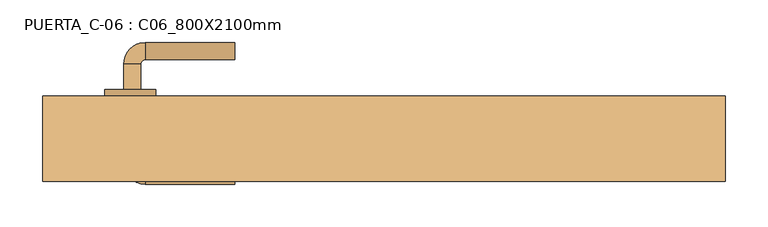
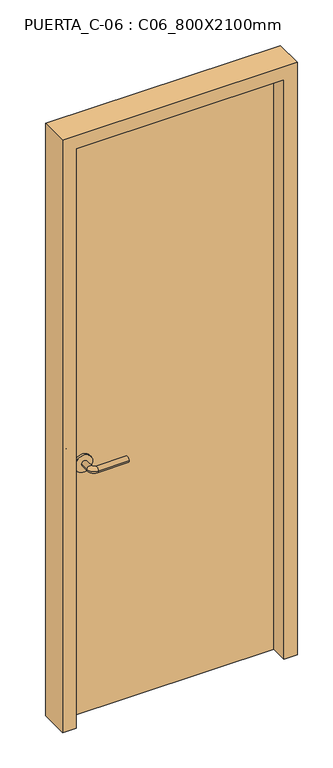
"""IFC4 building model written with IfcOpenShell, lengths in millimetres: door geometry, PUERTA_C-06 : C06_800X2100mm."""

import ifcopenshell
import ifcopenshell.guid

model = None  # the IFC model being written
_history = None  # IfcOwnerHistory: only IFC2X3 demands one
_inside = {}  # id of a spatial element -> (the spatial element, [elements in it])
_under = {}  # id of a project, library or spatial element -> (it, [spatial elements below it])
_declared = {}  # id of a project -> (the project, [libraries it declares])
_typed = {}  # id of a type object -> (the type object, [elements of that type])
_made_of = {}  # id of a material, layer set ... -> (it, [elements and type objects made of it])


def new_model(schema):
    """Start an empty IFC model of exactly this schema.

    Asked for "IFC4X3", IfcOpenShell would pick the latest addendum, in which some entities
    have other attributes; the version numbers below select the first issue.
    IFC2X3 requires an IfcOwnerHistory on every rooted entity: one is made here for all.
    """
    global model, _history
    if schema == "IFC4X3":
        model = ifcopenshell.file(schema_version=(4, 3, 0, 0))
    else:
        model = ifcopenshell.file(schema=schema)
    _inside.clear()
    _under.clear()
    _declared.clear()
    _typed.clear()
    _made_of.clear()
    _history = None
    if model.schema == "IFC2X3":
        org = make("IfcOrganization", Name="unknown")
        user = make(
            "IfcPersonAndOrganization",
            ThePerson=make("IfcPerson", FamilyName="unknown"),
            TheOrganization=org,
        )
        app = make(
            "IfcApplication",
            ApplicationDeveloper=org,
            Version="unknown",
            ApplicationFullName="unknown",
            ApplicationIdentifier="unknown",
        )
        _history = make(
            "IfcOwnerHistory",
            OwningUser=user,
            OwningApplication=app,
            ChangeAction="ADDED",
            CreationDate=0,
        )
    return model


def make(cls, **values):
    """One entity of the class cls with the attributes given. An attribute that is None is left unset."""
    return model.create_entity(
        cls, **{name: value for name, value in values.items() if value is not None}
    )


def rooted(cls, **values):
    """An entity with a GlobalId (a new one), such as an element, a storey or a relation."""
    return make(cls, GlobalId=ifcopenshell.guid.new(), OwnerHistory=_history, **values)


def si_unit(unit_type, name, prefix=None):
    """IfcSIUnit, for example si_unit("LENGTHUNIT", "METRE", prefix="MILLI")."""
    return make("IfcSIUnit", UnitType=unit_type, Prefix=prefix, Name=name)


def assignment(units):
    """IfcUnitAssignment: the units of a project."""
    return None if units is None else make("IfcUnitAssignment", Units=units)


def point(xyz):
    """IfcCartesianPoint."""
    return None if xyz is None else make("IfcCartesianPoint", Coordinates=xyz)


def direction(xyz):
    """IfcDirection."""
    return None if xyz is None else make("IfcDirection", DirectionRatios=xyz)


def frame(location, z_axis=None, x_axis=None):
    """IfcAxis2Placement3D, a coordinate frame: its origin and axes. An axis left out is left unset."""
    return make(
        "IfcAxis2Placement3D",
        Location=point(location),
        Axis=direction(z_axis),
        RefDirection=direction(x_axis),
    )


def frame_2d(location, x_axis=None):
    """IfcAxis2Placement2D, a coordinate frame in the plane: its origin and x axis."""
    return make(
        "IfcAxis2Placement2D", Location=point(location), RefDirection=direction(x_axis)
    )


def origin():
    """The frame at (0, 0, 0) with its axes left unset."""
    return frame((0.0, 0.0, 0.0))


def origin_with_axes():
    """The frame at (0, 0, 0) with the z axis (0, 0, 1) and the x axis (1, 0, 0) written out."""
    return frame((0.0, 0.0, 0.0), z_axis=(0.0, 0.0, 1.0), x_axis=(1.0, 0.0, 0.0))


def place(relative_to, where):
    """IfcLocalPlacement: puts the frame where relative to a parent placement (None: the world)."""
    return make(
        "IfcLocalPlacement", PlacementRelTo=relative_to, RelativePlacement=where
    )


def context(
    kind, dimensions, precision=None, world=None, true_north=None, identifier=None
):
    """IfcGeometricRepresentationContext, for example the 3D "Model" context."""
    return make(
        "IfcGeometricRepresentationContext",
        ContextIdentifier=identifier,
        ContextType=kind,
        CoordinateSpaceDimension=dimensions,
        Precision=precision,
        WorldCoordinateSystem=world,
        TrueNorth=true_north,
    )


def project(units=None, contexts=None):
    """IfcProject with its units and contexts."""
    return rooted(
        "IfcProject",
        Name="project",
        RepresentationContexts=contexts,
        UnitsInContext=assignment(units),
    )


def spatial(cls, under=None, at=None, **own):
    """A site, building, storey or space (cls), placed at a placement, below another one or the project."""
    s = rooted(cls, ObjectPlacement=at, **own)
    if under is not None:
        _under.setdefault(under.id(), (under, []))[1].append(s)
    return s


def polyline(points):
    """IfcPolyline through the points."""
    return make("IfcPolyline", Points=[point(p) for p in points])


def circle_curve(where, radius):
    """IfcCircle in the frame where."""
    return make("IfcCircle", Position=where, Radius=radius)


def ellipse_curve(where, semi_axis1, semi_axis2):
    """IfcEllipse in the frame where."""
    return make(
        "IfcEllipse", Position=where, SemiAxis1=semi_axis1, SemiAxis2=semi_axis2
    )


def trimmed(basis, trim1, trim2, sense, master):
    """IfcTrimmedCurve: the piece of a basis curve between two trims."""
    return make(
        "IfcTrimmedCurve",
        BasisCurve=basis,
        Trim1=trim1,
        Trim2=trim2,
        SenseAgreement=sense,
        MasterRepresentation=master,
    )


def segment(curve, same_sense, transition):
    """IfcCompositeCurveSegment."""
    return make(
        "IfcCompositeCurveSegment",
        Transition=transition,
        SameSense=same_sense,
        ParentCurve=curve,
    )


def composite_curve(segments, self_intersect=None):
    """IfcCompositeCurve: segments joined end to end."""
    return make("IfcCompositeCurve", Segments=segments, SelfIntersect=self_intersect)


def outline(outer, holes=None, kind="AREA"):
    """IfcArbitraryClosedProfileDef: a profile drawn as a closed curve; with holes, ...WithVoids."""
    if holes is None:
        return make("IfcArbitraryClosedProfileDef", ProfileType=kind, OuterCurve=outer)
    return make(
        "IfcArbitraryProfileDefWithVoids",
        ProfileType=kind,
        OuterCurve=outer,
        InnerCurves=holes,
    )


def extrude(swept, where, along, depth):
    """IfcExtrudedAreaSolid: the profile swept, set in the frame where, extruded along a direction by depth."""
    return make(
        "IfcExtrudedAreaSolid",
        SweptArea=swept,
        Position=where,
        ExtrudedDirection=direction(along),
        Depth=depth,
    )


def faces_of(points, faces, orient=None, outer=None):
    """IfcFace entities. A face is a list of loops; a loop is a list of indices into points, from 0.

    orient and outer hold one flag for each loop. By default every Orientation is true, the
    first loop of a face is its IfcFaceOuterBound and the others are IfcFaceBound.
    """
    made = []
    for i, loops in enumerate(faces):
        bounds = []
        for j, loop in enumerate(loops):
            is_outer = j == 0 if outer is None else outer[i][j]
            bounds.append(
                make(
                    "IfcFaceOuterBound" if is_outer else "IfcFaceBound",
                    Bound=make("IfcPolyLoop", Polygon=[points[k] for k in loop]),
                    Orientation=True if orient is None else orient[i][j],
                )
            )
        made.append(make("IfcFace", Bounds=bounds))
    return made


def faceted_brep(points, faces, orient=None, outer=None, voids=None):
    """IfcFacetedBrep: a solid bounded by flat faces; with voids (closed shells), ...WithVoids."""
    shared = [point(p) for p in points]
    hull = make("IfcClosedShell", CfsFaces=faces_of(shared, faces, orient, outer))
    if voids is None:
        return make("IfcFacetedBrep", Outer=hull)
    return make(
        "IfcFacetedBrepWithVoids",
        Outer=hull,
        Voids=[
            make(cls, CfsFaces=faces_of(shared, fs, o, b)) for cls, fs, o, b in voids
        ],
    )


def shape(context_of_items, identifier, shape_type, items):
    """IfcShapeRepresentation: the items that make up one representation, for example the "Body"."""
    return make(
        "IfcShapeRepresentation",
        ContextOfItems=context_of_items,
        RepresentationIdentifier=identifier,
        RepresentationType=shape_type,
        Items=items,
    )


def source(mapping_origin, context_of_items, identifier, shape_type, items):
    """IfcRepresentationMap: a shape defined once, which mapped items show again and again."""
    return make(
        "IfcRepresentationMap",
        MappingOrigin=mapping_origin,
        MappedRepresentation=shape(context_of_items, identifier, shape_type, items),
    )


def transform(
    local_origin,
    x_axis=None,
    y_axis=None,
    z_axis=None,
    scale=None,
    scale2=None,
    scale3=None,
    uniform=True,
):
    """IfcCartesianTransformationOperator3D, or its non-uniform kind. x_axis, y_axis, z_axis: its Axis1, 2, 3."""
    if uniform:
        return make(
            "IfcCartesianTransformationOperator3D",
            Axis1=direction(x_axis),
            Axis2=direction(y_axis),
            LocalOrigin=point(local_origin),
            Scale=scale,
            Axis3=direction(z_axis),
        )
    return make(
        "IfcCartesianTransformationOperator3DnonUniform",
        Axis1=direction(x_axis),
        Axis2=direction(y_axis),
        LocalOrigin=point(local_origin),
        Scale=scale,
        Axis3=direction(z_axis),
        Scale2=scale2,
        Scale3=scale3,
    )


def mapped(mapping_source, mapping_target):
    """IfcMappedItem: shows the shape of a source again, moved by a transform."""
    return make(
        "IfcMappedItem", MappingSource=mapping_source, MappingTarget=mapping_target
    )


def made_of(thing, what):
    """Note that an element or type object is made of a material, layer set ...; save() writes the relation."""
    if what is not None:
        _made_of.setdefault(what.id(), (what, []))[1].append(thing)
    return thing


def element(
    cls,
    number,
    at=None,
    inside=None,
    cuts=None,
    type_object=None,
    material=None,
    context=None,
    identifier="Body",
    shape_type=None,
    held_by="IfcProductDefinitionShape",
    body=None,
    shapes=None,
    **own,
):
    """One element of the class cls, such as IfcWall. Its Tag is "e" and its number.

    at: its placement. inside: the storey or other place that contains it. cuts: it is an
    opening in that element (IfcRelVoidsElement). A single representation is given by context,
    identifier, shape_type and body (its items); several are given by shapes. held_by: the class
    of the entity that holds the representations. save() writes the other relations.
    """
    e = rooted(cls, Tag="e%d" % number, ObjectPlacement=at, **own)
    if body is not None:
        shapes = [shape(context, identifier, shape_type, body)]
    if shapes is not None:
        e.Representation = make(held_by, Representations=shapes)
    if inside is not None:
        _inside.setdefault(inside.id(), (inside, []))[1].append(e)
    if cuts is not None:
        rooted(
            "IfcRelVoidsElement", RelatingBuildingElement=cuts, RelatedOpeningElement=e
        )
    if type_object is not None:
        _typed.setdefault(type_object.id(), (type_object, []))[1].append(e)
    return made_of(e, material)


def aggregate(whole, parts):
    """IfcRelAggregates: a whole, such as a stair, and the parts it consists of."""
    return rooted("IfcRelAggregates", RelatingObject=whole, RelatedObjects=parts)


def save(model, path):
    """Write the relations noted so far, then the file.

    IfcRelAggregates (storeys below a building ...), IfcRelContainedInSpatialStructure (elements
    in a storey), IfcRelDefinesByType, IfcRelAssociatesMaterial and IfcRelDeclares: one each for
    every whole, place, type object, material and project.
    """
    for whole, parts in _under.values():
        aggregate(whole, parts)
    for where, things in _inside.values():
        rooted(
            "IfcRelContainedInSpatialStructure",
            RelatedElements=things,
            RelatingStructure=where,
        )
    for kind, things in _typed.values():
        rooted("IfcRelDefinesByType", RelatedObjects=things, RelatingType=kind)
    for what, things in _made_of.values():
        rooted("IfcRelAssociatesMaterial", RelatedObjects=things, RelatingMaterial=what)
    for by, libraries in _declared.values():
        rooted("IfcRelDeclares", RelatingContext=by, RelatedDefinitions=libraries)
    model.write(path)


def plane_surface(at):
    """IfcPlane: the flat surface through the origin of the frame at, square to its z axis."""
    return make("IfcPlane", Position=at)


def cylinder_surface(at, radius):
    """IfcCylindricalSurface: all points at the distance radius from the z axis of the frame at."""
    return make("IfcCylindricalSurface", Position=at, Radius=radius)


def revolved_surface(curve, axis_point, axis_direction):
    """IfcSurfaceOfRevolution: the curve turned about the line through axis_point along axis_direction."""
    return make(
        "IfcSurfaceOfRevolution",
        SweptCurve=make("IfcArbitraryOpenProfileDef", ProfileType="CURVE", Curve=curve),
        AxisPosition=make("IfcAxis1Placement", Location=point(axis_point), Axis=direction(axis_direction)),
    )


def advanced_brep(points, edges, surfaces, faces):
    """IfcAdvancedBrep: a solid bounded by faces that lie on surfaces and meet in shared edges.

    An edge is (start, end): straight between two places in points (the first is 0);
    or (start, end, curve); or (start, end, curve, False) where it runs against its curve.
    A face is (place in surfaces, loops), or (place, loops, False) where it looks against
    its surface's normal. A loop lists edges by number (the first is 1), with a minus sign
    where the edge is run from its end to its start. The first loop is the outer one.
    """
    corners = [point(p) for p in points]
    vertices = [make("IfcVertexPoint", VertexGeometry=c) for c in corners]
    made = []
    for start, end, *more in edges:
        made.append(
            make(
                "IfcEdgeCurve",
                EdgeStart=vertices[start],
                EdgeEnd=vertices[end],
                EdgeGeometry=more[0] if more else make("IfcPolyline", Points=[corners[start], corners[end]]),
                SameSense=more[1] if len(more) > 1 else True,
            )
        )
    hull = []
    for where, loops, *sense in faces:
        bounds = []
        for j, loop in enumerate(loops):
            ring = [make("IfcOrientedEdge", EdgeElement=made[abs(k) - 1], Orientation=k > 0) for k in loop]
            bounds.append(
                make(
                    "IfcFaceOuterBound" if j == 0 else "IfcFaceBound",
                    Bound=make("IfcEdgeLoop", EdgeList=ring),
                    Orientation=True,
                )
            )
        hull.append(make("IfcAdvancedFace", Bounds=bounds, FaceSurface=surfaces[where], SameSense=sense[0] if sense else True))
    return make("IfcAdvancedBrep", Outer=make("IfcClosedShell", CfsFaces=hull))


def puerta_c_06_c06_800x2100mm_e445e519(model_context):
    return source(origin(), model_context, "Body", "SolidModel", [
        advanced_brep(
        [(-304.990625, 18.35, 900.0), (-284.990625, 18.35, 900.0), (-284.990625, -11.65, 900.0), (-304.990625, -11.65, 900.0), (-279.990625, -16.65, 900.0), (-279.990625, -36.65, 900.0), (-174.990625, -36.65, 900.0), (-174.990625, -16.65, 900.0)],
        [
            (0, 1, circle_curve(frame((-294.990625, 18.35, 900.0), z_axis=(0.0, 1.0, 0.0), x_axis=(1.0, 0.0, 0.0)), 10.0)),
            (1, 0, circle_curve(frame((-294.990625, 18.35, 900.0), z_axis=(0.0, 1.0, 0.0), x_axis=(1.0, 0.0, 0.0)), 10.0)),
            (1, 2),
            (2, 3, circle_curve(frame((-294.990625, -11.65, 900.0), z_axis=(0.0, 1.0, 0.0), x_axis=(1.0, 0.0, 0.0)), 10.0)),
            (3, 0),
            (3, 2, circle_curve(frame((-294.990625, -11.65, 900.0), z_axis=(0.0, 1.0, 0.0), x_axis=(1.0, 0.0, 0.0)), 10.0)),
            (4, 5, circle_curve(frame((-279.990625, -26.65, 900.0), z_axis=(-1.0, 0.0, 0.0), x_axis=(0.0, 1.0, 0.0)), 10.0)),
            (5, 3, circle_curve(frame((-279.990625, -11.65, 900.0), z_axis=(0.0, 0.0, -1.0), x_axis=(-1.0, 0.0, 0.0)), 25.0)),
            (2, 4, circle_curve(frame((-279.990625, -11.65, 900.0), z_axis=(0.0, 0.0, 1.0), x_axis=(-1.0, 0.0, 0.0)), 5.0)),
            (5, 4, circle_curve(frame((-279.990625, -26.65, 900.0), z_axis=(-1.0, 0.0, 0.0), x_axis=(0.0, 1.0, 0.0)), 10.0)),
            (6, 7, circle_curve(frame((-174.990625, -26.65, 900.0), z_axis=(1.0, 0.0, 0.0), x_axis=(0.0, 1.0, 0.0)), 10.0)),
            (7, 6, circle_curve(frame((-174.990625, -26.65, 900.0), z_axis=(1.0, 0.0, 0.0), x_axis=(0.0, 1.0, 0.0)), 10.0)),
            (4, 7),
            (6, 5),
        ],
        [
            plane_surface(frame((-294.990625, 18.35, 900.0), z_axis=(0.0, 1.0, 0.0), x_axis=(0.0, 0.0, 1.0))),
            cylinder_surface(frame((-294.990625, 18.35, 900.0), z_axis=(0.0, 1.0, 0.0), x_axis=(1.0, 0.0, 0.0)), 10.0),
            revolved_surface(trimmed(ellipse_curve(frame((-294.990625, -11.65, 900.0), z_axis=(0.0, -1.0, 0.0), x_axis=(1.0, 0.0, 0.0)), 10.0, 10.0), [point((-304.990625, -11.65, 900.0))], [point((-284.990625, -11.65, 900.0))], True, "CARTESIAN"), (-279.990625, -11.65, 900.0), (0.0, 0.0, -1.0)),
            revolved_surface(trimmed(ellipse_curve(frame((-294.990625, -11.65, 900.0), z_axis=(0.0, -1.0, 0.0), x_axis=(1.0, 0.0, 0.0)), 10.0, 10.0), [point((-284.990625, -11.65, 900.0))], [point((-304.990625, -11.65, 900.0))], True, "CARTESIAN"), (-279.990625, -11.65, 900.0), (0.0, 0.0, -1.0)),
            plane_surface(frame((-174.990625, -26.65, 900.0), z_axis=(1.0, 0.0, 0.0), x_axis=(0.0, 0.0, 1.0))),
            cylinder_surface(frame((-279.990625, -26.65, 900.0), z_axis=(-1.0, 0.0, 0.0), x_axis=(0.0, 1.0, 0.0)), 10.0),
        ],
        [
            (0, [[1, 2]]),
            (1, [[3, 4, 5, -2]]),
            (1, [[-5, 6, -3, -1]]),
            (2, [[7, 8, -4, 9]]),
            (3, [[10, -9, -6, -8]]),
            (4, [[11, 12]]),
            (5, [[13, -11, 14, -7]]),
            (5, [[-14, -12, -13, -10]]),
        ],
    ),
        extrude(outline(composite_curve([segment(trimmed(circle_curve(frame_2d((900.0, -297.490625)), 30.0), [point((900.0, -327.490625))], [point((900.0, -267.490625))], False, "CARTESIAN"), True, "CONTINUOUS"), segment(trimmed(circle_curve(frame_2d((900.0, -297.490625)), 30.0), [point((900.0, -267.490625))], [point((900.0, -327.490625))], False, "CARTESIAN"), True, "CONTINUOUS")], self_intersect=False)), frame((0.0, 18.35, 0.0), z_axis=(0.0, 1.0, 0.0), x_axis=(0.0, 0.0, 1.0)), (0.0, 0.0, 1.0), 8.0),
        advanced_brep(
        [(-304.990625, 74.35, 900.0), (-284.990625, 74.35, 900.0), (-304.990625, 104.35, 900.0), (-284.990625, 104.35, 900.0), (-279.990625, 109.35, 900.0), (-279.990625, 129.35, 900.0), (-174.990625, 129.35, 900.0), (-174.990625, 109.35, 900.0)],
        [
            (0, 1, circle_curve(frame((-294.990625, 74.35, 900.0), z_axis=(0.0, -1.0, 0.0), x_axis=(1.0, 0.0, 0.0)), 10.0)),
            (1, 0, circle_curve(frame((-294.990625, 74.35, 900.0), z_axis=(0.0, -1.0, 0.0), x_axis=(1.0, 0.0, 0.0)), 10.0)),
            (0, 2),
            (2, 3, circle_curve(frame((-294.990625, 104.35, 900.0), z_axis=(0.0, -1.0, 0.0), x_axis=(1.0, 0.0, 0.0)), 10.0)),
            (3, 1),
            (3, 2, circle_curve(frame((-294.990625, 104.35, 900.0), z_axis=(0.0, -1.0, 0.0), x_axis=(1.0, 0.0, 0.0)), 10.0)),
            (4, 3, circle_curve(frame((-279.990625, 104.35, 900.0), z_axis=(0.0, 0.0, 1.0), x_axis=(-1.0, 0.0, 0.0)), 5.0)),
            (2, 5, circle_curve(frame((-279.990625, 104.35, 900.0), z_axis=(0.0, 0.0, -1.0), x_axis=(-1.0, 0.0, 0.0)), 25.0)),
            (5, 4, circle_curve(frame((-279.990625, 119.35, 900.0), z_axis=(-1.0, 0.0, 0.0), x_axis=(0.0, -1.0, 0.0)), 10.0)),
            (4, 5, circle_curve(frame((-279.990625, 119.35, 900.0), z_axis=(-1.0, 0.0, 0.0), x_axis=(0.0, -1.0, 0.0)), 10.0)),
            (6, 7, circle_curve(frame((-174.990625, 119.35, 900.0), z_axis=(1.0, 0.0, 0.0), x_axis=(0.0, -1.0, 0.0)), 10.0)),
            (7, 6, circle_curve(frame((-174.990625, 119.35, 900.0), z_axis=(1.0, 0.0, 0.0), x_axis=(0.0, -1.0, 0.0)), 10.0)),
            (5, 6),
            (7, 4),
        ],
        [
            plane_surface(frame((-294.990625, 74.35, 900.0), z_axis=(0.0, -1.0, 0.0), x_axis=(0.0, 0.0, 1.0))),
            cylinder_surface(frame((-294.990625, 74.35, 900.0), z_axis=(0.0, -1.0, 0.0), x_axis=(1.0, 0.0, 0.0)), 10.0),
            revolved_surface(trimmed(ellipse_curve(frame((-294.990625, 104.35, 900.0), z_axis=(0.0, -1.0, 0.0), x_axis=(1.0, 0.0, 0.0)), 10.0, 10.0), [point((-304.990625, 104.35, 900.0))], [point((-284.990625, 104.35, 900.0))], True, "CARTESIAN"), (-279.990625, 104.35, 900.0), (0.0, 0.0, -1.0)),
            revolved_surface(trimmed(ellipse_curve(frame((-294.990625, 104.35, 900.0), z_axis=(0.0, -1.0, 0.0), x_axis=(1.0, 0.0, 0.0)), 10.0, 10.0), [point((-284.990625, 104.35, 900.0))], [point((-304.990625, 104.35, 900.0))], True, "CARTESIAN"), (-279.990625, 104.35, 900.0), (0.0, 0.0, -1.0)),
            plane_surface(frame((-174.990625, 119.35, 900.0), z_axis=(1.0, 0.0, 0.0), x_axis=(0.0, 0.0, 1.0))),
            cylinder_surface(frame((-279.990625, 119.35, 900.0), z_axis=(-1.0, 0.0, 0.0), x_axis=(0.0, -1.0, 0.0)), 10.0),
        ],
        [
            (0, [[1, 2]]),
            (1, [[-1, 3, 4, 5]]),
            (1, [[-2, -5, 6, -3]]),
            (2, [[7, -4, 8, 9]]),
            (3, [[-8, -6, -7, 10]]),
            (4, [[11, 12]]),
            (5, [[-9, 13, -12, 14]]),
            (5, [[-10, -14, -11, -13]]),
        ],
    ),
        extrude(outline(composite_curve([segment(trimmed(circle_curve(frame_2d((900.0, -297.490625)), 30.0), [point((900.0, -327.490625))], [point((900.0, -267.490625))], False, "CARTESIAN"), True, "CONTINUOUS"), segment(trimmed(circle_curve(frame_2d((900.0, -297.490625)), 30.0), [point((900.0, -267.490625))], [point((900.0, -327.490625))], False, "CARTESIAN"), True, "CONTINUOUS")], self_intersect=False)), frame((0.0, 66.35, 0.0), z_axis=(0.0, 1.0, 0.0), x_axis=(0.0, 0.0, 1.0)), (0.0, 0.0, 1.0), 8.0),
        faceted_brep([(370.0, 33.1875, 0.0), (370.0, 66.35, 0.0), (400.0, 66.35, 0.0), (400.0, -33.65, 0.0), (354.125, -33.65, 0.0), (354.125, 33.1875, 0.0), (370.0, 33.1875, 2100.0), (370.0, 66.35, 2100.0), (-370.0, 66.35, 2100.0), (-370.0, 66.35, 0.0), (-400.0, 66.35, 0.0), (-400.0, 66.35, 2130.0), (400.0, 66.35, 2130.0), (400.0, -33.65, 2130.0), (-400.0, -33.65, 2130.0), (-400.0, -33.65, 0.0), (-354.125, -33.65, 0.0), (-354.125, -33.65, 2084.125), (354.125, -33.65, 2084.125), (354.125, 33.1875, 2084.125), (-354.125, 33.1875, 2084.125), (-354.125, 33.1875, 0.0), (-370.0, 33.1875, 0.0), (-370.0, 33.1875, 2100.0)], [[[0, 1, 2, 3, 4, 5]], [[1, 0, 6, 7]], [[2, 1, 7, 8, 9, 10, 11, 12]], [[3, 2, 12, 13]], [[4, 3, 13, 14, 15, 16, 17, 18]], [[5, 4, 18, 19]], [[0, 5, 19, 20, 21, 22, 23, 6]], [[7, 6, 23, 8]], [[13, 12, 11, 14]], [[19, 18, 17, 20]], [[22, 21, 16, 15, 10, 9]], [[8, 23, 22, 9]], [[14, 11, 10, 15]], [[20, 17, 16, 21]]]),
        extrude(outline(polyline([(370.0, 26.35), (-370.0, 26.35), (-370.0, 66.35), (370.0, 66.35), (370.0, 26.35)])), origin_with_axes(), (0.0, 0.0, 1.0), 2100.0),
        extrude(outline(polyline([(270.0, 43.85), (-270.0, 43.85), (-270.0, 48.85), (270.0, 48.85), (270.0, 43.85)])), frame((0.0, 0.0, 1200.0), z_axis=(0.0, 0.0, 1.0), x_axis=(1.0, 0.0, 0.0)), (0.0, 0.0, 1.0), 747.6),
    ])


if __name__ == "__main__":
    model = new_model("IFC4")
    model_context = context("Model", 3, world=origin())
    ifc_project = project(units=[si_unit("LENGTHUNIT", "METRE", prefix="MILLI")], contexts=[model_context])
    site = spatial("IfcSite", under=ifc_project)
    building = spatial("IfcBuilding", under=site)
    placement = place(None, origin())
    puerta_c_06_c06_800x2100mm_shape = puerta_c_06_c06_800x2100mm_e445e519(model_context)
    element("IfcDoor", 1, ObjectType="PUERTA_C-06 : C06_800X2100mm", at=placement, inside=building, context=model_context, shape_type="MappedRepresentation", body=[
        mapped(puerta_c_06_c06_800x2100mm_shape, transform((0.0, 0.0, 0.0), x_axis=(1.0, 0.0, 0.0), y_axis=(0.0, 1.0, 0.0), z_axis=(0.0, 0.0, 1.0))),
    ])
    save(model, "model.ifc")
